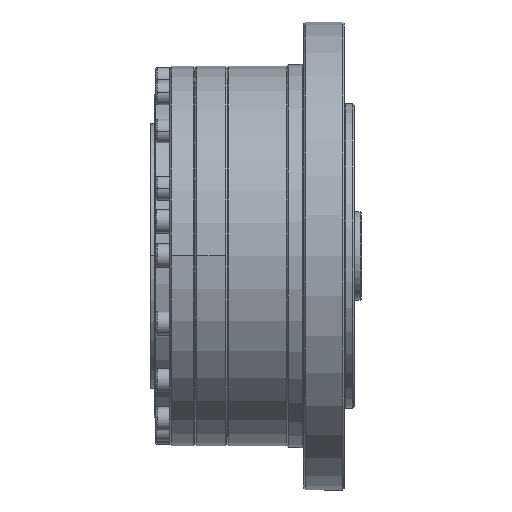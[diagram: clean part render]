
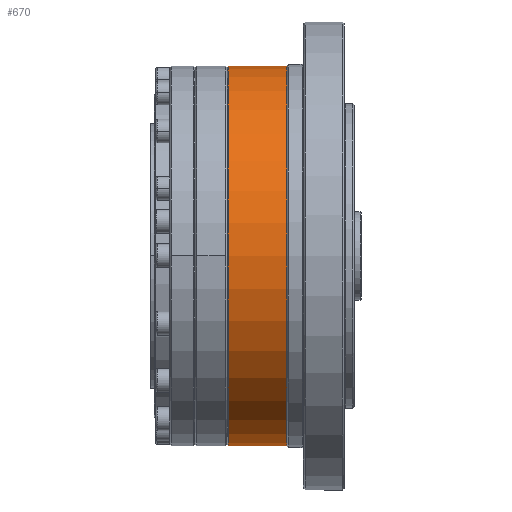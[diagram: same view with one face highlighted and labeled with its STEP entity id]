
A CAD part, top view. The second image highlights one B-rep face of the part: STEP entity #670.
In plain terms, the highlighted cylindrical face has radius 56 mm (diameter 112 mm), a partial arc.
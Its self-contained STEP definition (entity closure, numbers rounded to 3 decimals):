
#670 = ADVANCED_FACE ( 'NONE', ( #3311 ), #32140, .T. ) ;
#3311 = FACE_OUTER_BOUND ( 'NONE', #7274, .T. ) ;
#4074 = CARTESIAN_POINT ( 'NONE',  ( -20., 56., 0. ) ) ;
#5892 = VERTEX_POINT ( 'NONE', #23688 ) ;
#7274 = EDGE_LOOP ( 'NONE', ( #33917, #45763, #10265, #46996 ) ) ;
#9175 = CARTESIAN_POINT ( 'NONE',  ( -40.433, -56., 0. ) ) ;
#9334 = CARTESIAN_POINT ( 'NONE',  ( -40.433, 0., 0. ) ) ;
#10265 = ORIENTED_EDGE ( 'NONE', *, *, #23057, .F. ) ;
#10632 = LINE ( 'NONE', #41945, #28249 ) ;
#13105 = DIRECTION ( 'NONE',  ( -1., 0., 0. ) ) ;
#14164 = AXIS2_PLACEMENT_3D ( 'NONE', #17771, #44041, #21572 ) ;
#15876 = CARTESIAN_POINT ( 'NONE',  ( -37.2, -56., 0. ) ) ;
#16568 = LINE ( 'NONE', #9175, #23043 ) ;
#16587 = DIRECTION ( 'NONE',  ( -1., 0., 0. ) ) ;
#17337 = EDGE_CURVE ( 'NONE', #19530, #27027, #44918, .T. ) ;
#17771 = CARTESIAN_POINT ( 'NONE',  ( -20., 0., 0. ) ) ;
#19530 = VERTEX_POINT ( 'NONE', #45510 ) ;
#20529 = DIRECTION ( 'NONE',  ( -1., 0., 0. ) ) ;
#20630 = EDGE_CURVE ( 'NONE', #27027, #5892, #10632, .T. ) ;
#21572 = DIRECTION ( 'NONE',  ( 0., -1., 0. ) ) ;
#23043 = VECTOR ( 'NONE', #16587, 1000. ) ;
#23057 = EDGE_CURVE ( 'NONE', #45064, #5892, #47450, .T. ) ;
#23688 = CARTESIAN_POINT ( 'NONE',  ( -37.2, 56., 0. ) ) ;
#24472 = AXIS2_PLACEMENT_3D ( 'NONE', #42974, #20529, #46763 ) ;
#27027 = VERTEX_POINT ( 'NONE', #4074 ) ;
#28249 = VECTOR ( 'NONE', #30961, 1000. ) ;
#29828 = EDGE_CURVE ( 'NONE', #19530, #45064, #16568, .T. ) ;
#30961 = DIRECTION ( 'NONE',  ( -1., 0., 0. ) ) ;
#32140 = CYLINDRICAL_SURFACE ( 'NONE', #40600, 56. ) ;
#33917 = ORIENTED_EDGE ( 'NONE', *, *, #17337, .T. ) ;
#40600 = AXIS2_PLACEMENT_3D ( 'NONE', #9334, #13105, #42989 ) ;
#41945 = CARTESIAN_POINT ( 'NONE',  ( -40.433, 56., 0. ) ) ;
#42974 = CARTESIAN_POINT ( 'NONE',  ( -37.2, 0., 0. ) ) ;
#42989 = DIRECTION ( 'NONE',  ( 0., -1., 0. ) ) ;
#44041 = DIRECTION ( 'NONE',  ( -1., 0., 0. ) ) ;
#44918 = CIRCLE ( 'NONE', #14164, 56. ) ;
#45064 = VERTEX_POINT ( 'NONE', #15876 ) ;
#45510 = CARTESIAN_POINT ( 'NONE',  ( -20., -56., 0. ) ) ;
#45763 = ORIENTED_EDGE ( 'NONE', *, *, #20630, .T. ) ;
#46763 = DIRECTION ( 'NONE',  ( 0., -1., 0. ) ) ;
#46996 = ORIENTED_EDGE ( 'NONE', *, *, #29828, .F. ) ;
#47450 = CIRCLE ( 'NONE', #24472, 56. ) ;
